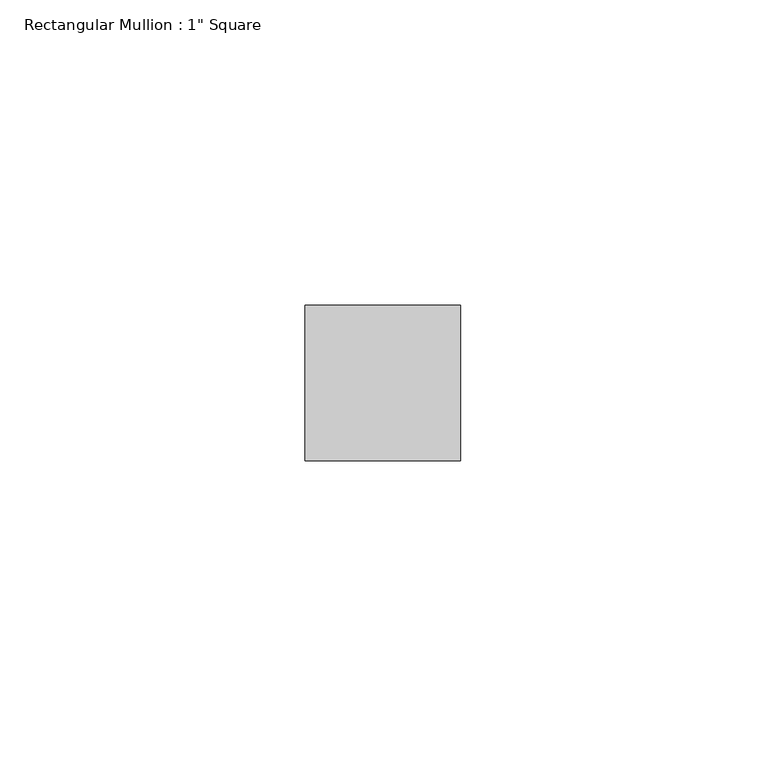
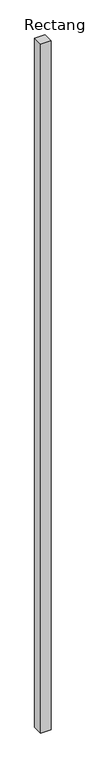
"""IFC4 building model written with IfcOpenShell, lengths in millimetres: member geometry."""

from ifc_helpers import new_model, si_unit, frame, origin, place, context, project, spatial, polyline, outline, extrude, source, transform, mapped, element, save


def member_f6a73803(model_context):
    return source(origin(), model_context, "Body", "SweptSolid", [
        extrude(outline(polyline([(12.7, 12.7), (12.7, -12.7), (-12.7, -12.7), (-12.7, 12.7), (12.7, 12.7)])), frame((0.0, 0.0, -1765.2416342), z_axis=(0.0, 0.0, 1.0), x_axis=(1.0, 0.0, 0.0)), (0.0, 0.0, 1.0), 1765.2416342),
    ])


if __name__ == "__main__":
    model = new_model("IFC4")
    model_context = context("Model", 3, world=origin())
    ifc_project = project(units=[si_unit("LENGTHUNIT", "METRE", prefix="MILLI")], contexts=[model_context])
    site = spatial("IfcSite", under=ifc_project)
    building = spatial("IfcBuilding", under=site)
    placement = place(None, origin())
    member_shape = member_f6a73803(model_context)
    element("IfcMember", 1, ObjectType="Rectangular Mullion : 1\" Square", at=placement, inside=building, context=model_context, shape_type="MappedRepresentation", body=[
        mapped(member_shape, transform((0.0, 0.0, 0.0), x_axis=(1.0, 0.0, 0.0), y_axis=(0.0, 1.0, 0.0), z_axis=(0.0, 0.0, 1.0))),
    ])
    save(model, "model.ifc")
